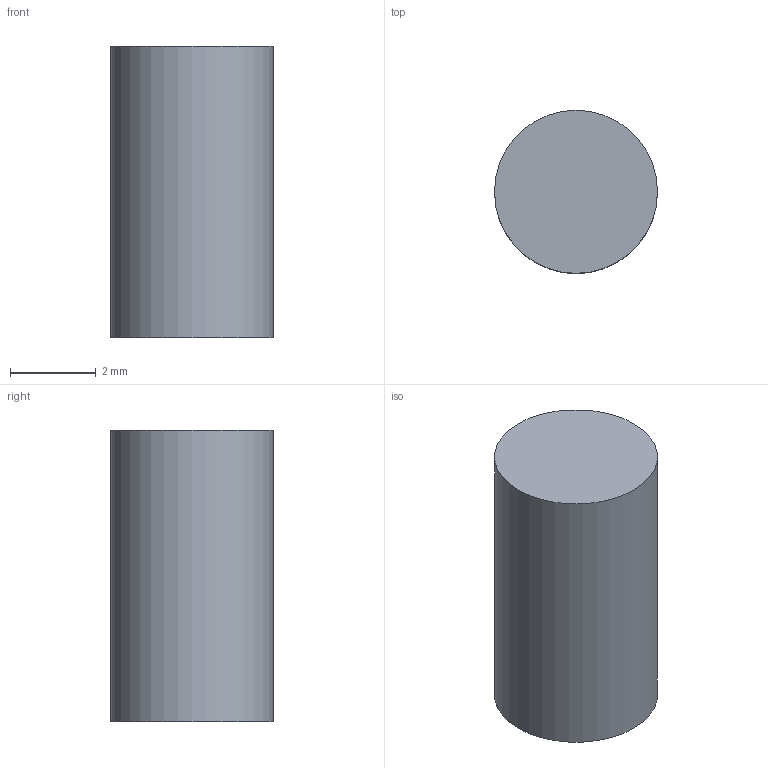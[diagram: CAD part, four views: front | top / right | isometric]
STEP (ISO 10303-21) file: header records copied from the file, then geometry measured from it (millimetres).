
FILE_DESCRIPTION(('Open CASCADE Model'),'2;1');
FILE_NAME('Open CASCADE Shape Model','2026-09-10T00:40:50',('Author'),( 'Open CASCADE'),'Open CASCADE STEP processor 7.8','Open CASCADE 7.8' ,'Unknown');
FILE_SCHEMA(('AUTOMOTIVE_DESIGN { 1 0 10303 214 1 1 1 1 }'));
Length unit declared in the file: millimetre
Products named in the file (1): Open CASCADE STEP translator 7.8 14
Bounding box: 3.8 x 3.8 x 6.8 mm (x, y, z)
Volume: 77.1 mm3; surface area: 103.9 mm2
Topology: 1 solids, 1 shells, 3 faces, 3 edges, 2 vertices
Faces by surface type: plane 2, cylinder 1
Full cylindrical faces by diameter (mm): 3.8 x1
Entity records: 108 total; most frequent: DIRECTION 19, CARTESIAN_POINT 15, AXIS2_PLACEMENT_3D 6, ORIENTED_EDGE 6, PCURVE 6, DEFINITIONAL_REPRESENTATION 6, LINE 5, VECTOR 5
